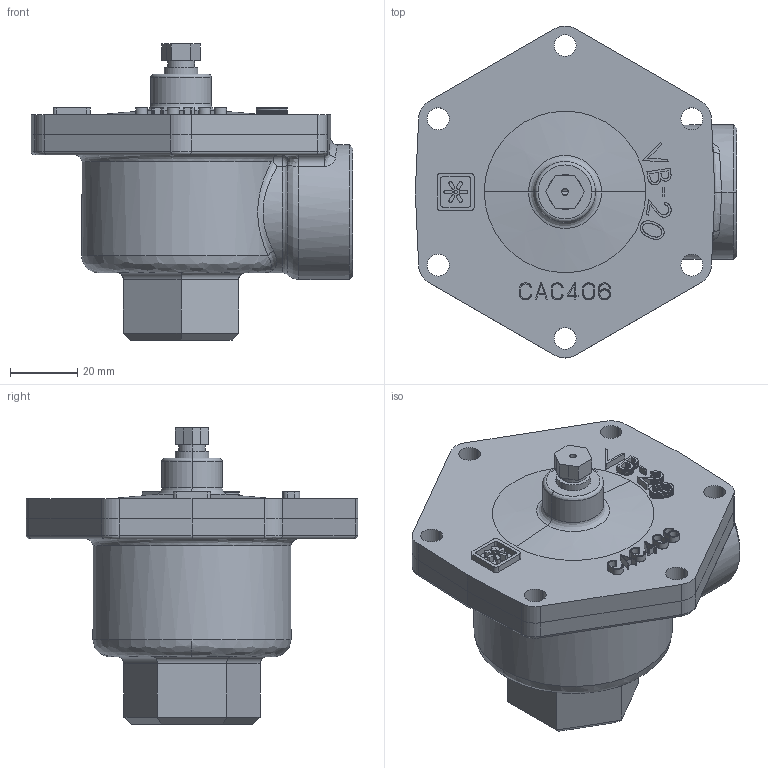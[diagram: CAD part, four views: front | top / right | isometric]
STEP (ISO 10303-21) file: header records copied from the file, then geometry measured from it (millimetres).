
FILE_DESCRIPTION( (''), '2;1');
FILE_NAME ('PC1276.11224.VB-20 20A_1704.stp','2025-06-09T15:39:38',(''),(''),'spGate 20.6.3 (****-****-****-****)','','');
FILE_SCHEMA (('AUTOMOTIVE_DESIGN'));
Length unit declared in the file: millimetre
Products named in the file (5): Assembly; 3D 本体_1.stp; 3D カバー_1.stp; 3D プラグ_1.stp; 本体埋め
Assembly tree (4 placements, depth 2):
  Assembly
    3D 本体_1.stp
    3D カバー_1.stp
    3D プラグ_1.stp
    本体埋め
Bounding box: 95.5 x 98.6 x 88 mm (x, y, z)
Volume: 202640.5 mm3; surface area: 69544.8 mm2
Topology: 4 solids, 4 shells, 831 faces, 2237 edges, 1450 vertices
Faces by surface type: plane 557, cylinder 143, bspline 130, sphere 1
Entity records: 48739 total; most frequent: CARTESIAN_POINT 10989, ORIENTED_EDGE 4464, DIRECTION 3727, COLOUR_RGB 3067, PRESENTATION_STYLE_ASSIGNMENT 3067, STYLED_ITEM 3067, EDGE_CURVE 2232, DRAUGHTING_PRE_DEFINED_CURVE_FONT 2232
